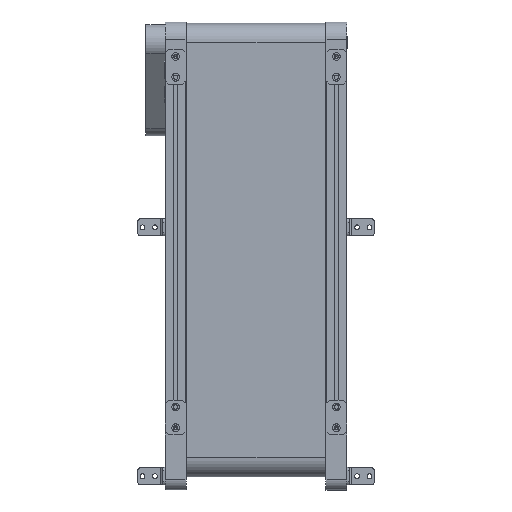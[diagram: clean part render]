
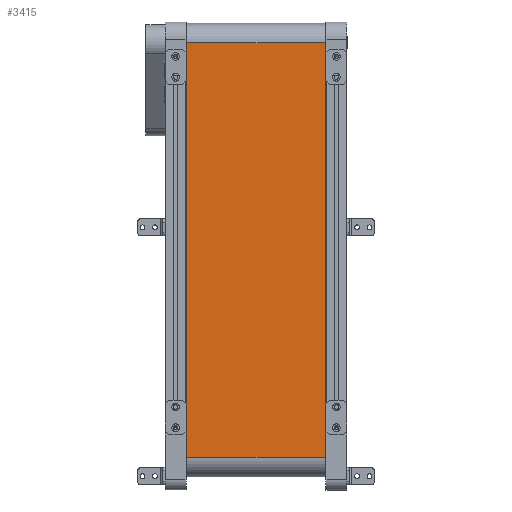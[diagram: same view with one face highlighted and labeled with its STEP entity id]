
A CAD part, top view. The second image highlights one B-rep face of the part: STEP entity #3415.
In plain terms, the highlighted planar face has unit normal (0, 0, 1) as drawn and (0, 1, 0) by its records, which use the part's own axes.
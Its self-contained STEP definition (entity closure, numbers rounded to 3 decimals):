
#1816=PLANE('',#34876);
#3415=ADVANCED_FACE('',(#5224),#1816,.F.);
#5224=FACE_OUTER_BOUND('',#6964,.T.);
#6964=EDGE_LOOP('',(#17512,#17513,#17514,#17515));
#10634=LINE('',#53774,#13004);
#10637=LINE('',#53785,#13007);
#10641=LINE('',#53798,#13011);
#10643=LINE('',#53802,#13013);
#13004=VECTOR('',#38944,1.);
#13007=VECTOR('',#38955,1.);
#13011=VECTOR('',#38967,1.);
#13013=VECTOR('',#38973,1.);
#17512=ORIENTED_EDGE('',*,*,#29451,.T.);
#17513=ORIENTED_EDGE('',*,*,#29458,.F.);
#17514=ORIENTED_EDGE('',*,*,#29445,.F.);
#17515=ORIENTED_EDGE('',*,*,#29460,.T.);
#25634=VERTEX_POINT('',#53769);
#25636=VERTEX_POINT('',#53773);
#25640=VERTEX_POINT('',#53784);
#25641=VERTEX_POINT('',#53786);
#29445=EDGE_CURVE('',#25636,#25634,#10634,.T.);
#29451=EDGE_CURVE('',#25641,#25640,#10637,.T.);
#29458=EDGE_CURVE('',#25634,#25640,#10641,.T.);
#29460=EDGE_CURVE('',#25636,#25641,#10643,.T.);
#34876=AXIS2_PLACEMENT_3D('',#53804,#38976,#38977);
#38944=DIRECTION('',(-1.,0.,0.));
#38955=DIRECTION('',(-1.,0.,0.));
#38967=DIRECTION('',(0.,0.,-1.));
#38973=DIRECTION('',(0.,0.,-1.));
#38976=DIRECTION('',(0.,-1.,0.));
#38977=DIRECTION('',(-1.,0.,0.));
#53769=CARTESIAN_POINT('',(-299.547,64.936,200.));
#53773=CARTESIAN_POINT('',(300.432,64.936,200.));
#53774=CARTESIAN_POINT('',(-299.547,64.936,200.));
#53784=CARTESIAN_POINT('',(-299.547,64.936,0.));
#53785=CARTESIAN_POINT('',(-299.547,64.936,0.));
#53786=CARTESIAN_POINT('',(300.432,64.936,0.));
#53798=CARTESIAN_POINT('',(-299.547,64.936,200.));
#53802=CARTESIAN_POINT('',(300.432,64.936,200.));
#53804=CARTESIAN_POINT('',(-299.547,64.936,200.));
